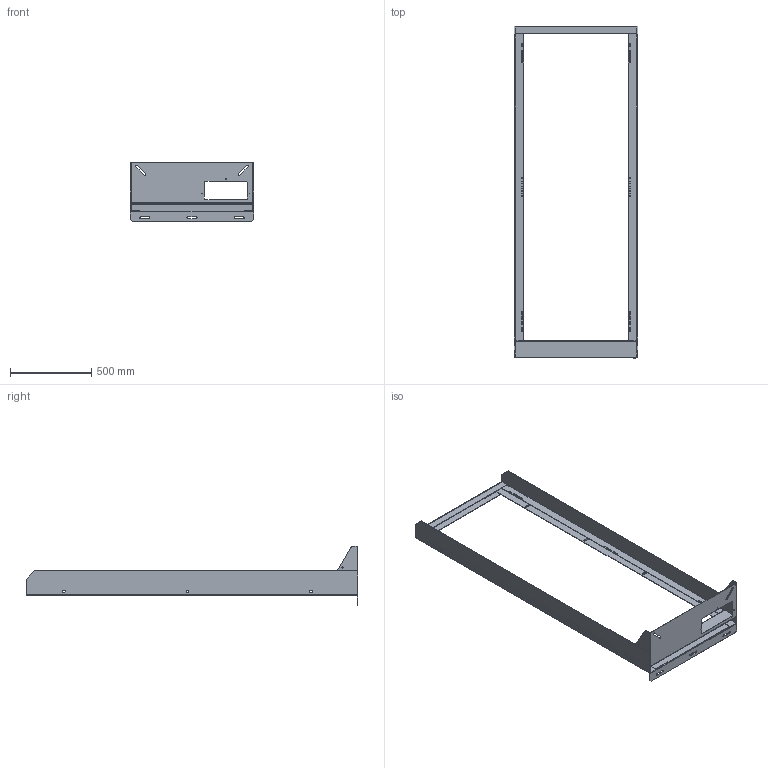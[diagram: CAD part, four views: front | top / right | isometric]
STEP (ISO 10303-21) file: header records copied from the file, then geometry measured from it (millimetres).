
FILE_DESCRIPTION (( 'STEP AP203' ), '1' );
FILE_NAME ('62458.STEP', '2025-03-17T15:35:18', ( '' ), ( '' ), 'SwSTEP 2.0', 'SolidWorks 2020', '' );
FILE_SCHEMA (( 'CONFIG_CONTROL_DESIGN' ));
Length unit declared in the file: inch
Products named in the file (8): 89251050_WITH HELLCAT; 89251053; 62458; 89251051; 89250177; 89250174; 89251052; 89250173
Assembly tree (8 placements, depth 3):
  62458
    89251050_WITH HELLCAT
      89251051
      89250173
      89250174  x2
      89251052
      89251053
      89250177
Bounding box: 759.6 x 2045.97 x 368.3 mm (x, y, z)
Volume: 5224472.2 mm3; surface area: 3303489.6 mm2
Topology: 7 solids, 7 shells, 522 faces, 1422 edges, 898 vertices
Faces by surface type: plane 312, cylinder 210
Entity records: 14605 total; most frequent: DIRECTION 2407, CARTESIAN_POINT 2358, ORIENTED_EDGE 2350, EDGE_CURVE 1175, VECTOR 825, LINE 825, AXIS2_PLACEMENT_3D 791, VERTEX_POINT 742
